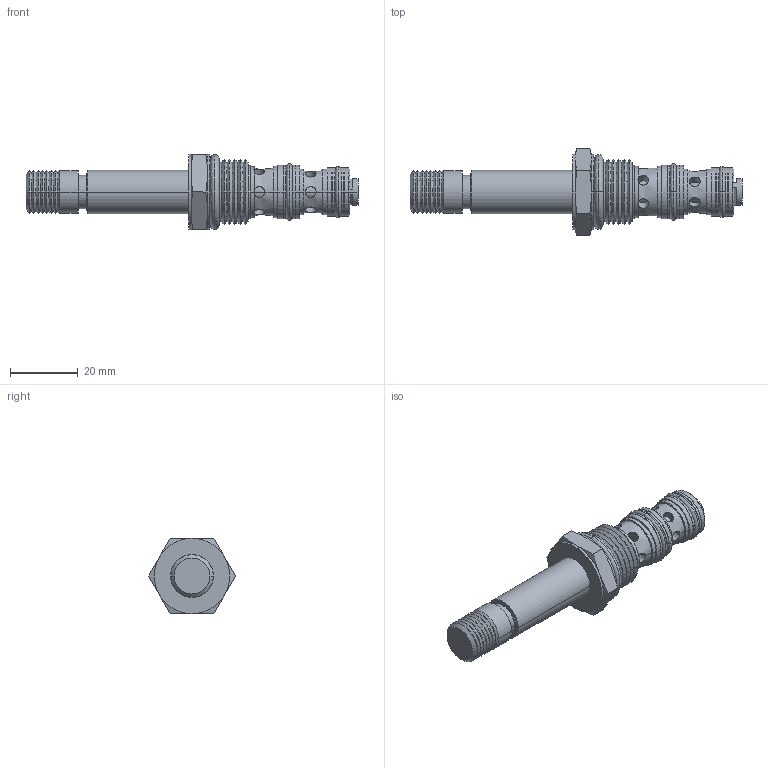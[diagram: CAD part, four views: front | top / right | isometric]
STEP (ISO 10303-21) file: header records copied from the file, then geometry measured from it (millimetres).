
FILE_DESCRIPTION((''),'2;1');
FILE_NAME('U:\Solid model CD\Solid model full\Solenoid\STEP\PPS3X00-3D Full.stp','2008-06-23T11:37:12',('Dan'),(''),'Autodesk Inventor 9','Autodesk Inventor 9','');
FILE_SCHEMA(('AUTOMOTIVE_DESIGN { 1 0 10303 214 1 1 1 1 }'));
Length unit declared in the file: inch
Products named in the file (9): PPS3X00-3D Full; PPS3X00-3D Full1; PPS3X00-3D Full2; PPS3X00-3D Full3; PPS3X00-3D Full4; PPS3X00-3D Full5; PPS3X00-3D Full6; PPS3X00-3D Full7; PPS3X00-3D Full8
Assembly tree (8 placements, depth 2):
  PPS3X00-3D Full
    PPS3X00-3D Full1
    PPS3X00-3D Full2
    PPS3X00-3D Full3
    PPS3X00-3D Full4
    PPS3X00-3D Full5
    PPS3X00-3D Full6
    PPS3X00-3D Full7
    PPS3X00-3D Full8
Bounding box: 97.7 x 25.66 x 22.23 mm (x, y, z)
Volume: 15742.1 mm3; surface area: 8673.3 mm2
Topology: 8 solids, 8 shells, 231 faces, 532 edges, 327 vertices
Faces by surface type: bspline 221, cylinder 8, plane 2
Entity records: 10201 total; most frequent: CARTESIAN_POINT 5534, ORIENTED_EDGE 1064, DIRECTION 731, EDGE_CURVE 532, VERTEX_POINT 327, AXIS2_PLACEMENT_3D 274, EDGE_LOOP 267, CIRCLE 247
